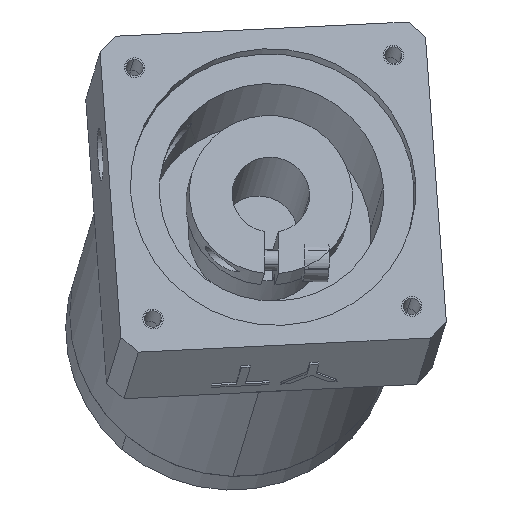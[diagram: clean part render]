
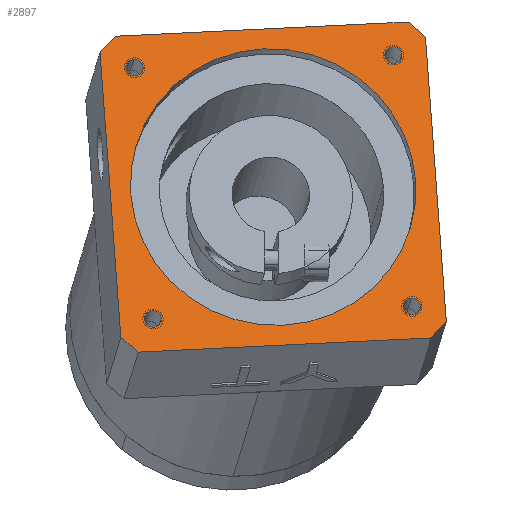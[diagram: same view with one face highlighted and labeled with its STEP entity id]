
A CAD part, left-side view. The second image highlights one B-rep face of the part: STEP entity #2897.
In plain terms, the highlighted planar face has unit normal (-0.963, -0.079, 0.257) as drawn and (0, -1, 0) by its records, which use the part's own axes.
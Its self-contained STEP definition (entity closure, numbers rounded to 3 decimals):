
#2120=DIRECTION('',(-0.707,0.,0.707));
#2121=VECTOR('',#2120,5.657);
#2122=CARTESIAN_POINT('',(-36.,0.,-40.));
#2123=LINE('',#2122,#2121);
#2124=DIRECTION('',(0.,0.,1.));
#2125=VECTOR('',#2124,72.);
#2126=CARTESIAN_POINT('',(-40.,0.,-36.));
#2127=LINE('',#2126,#2125);
#2128=DIRECTION('',(0.707,0.,0.707));
#2129=VECTOR('',#2128,5.657);
#2130=CARTESIAN_POINT('',(-40.,0.,36.));
#2131=LINE('',#2130,#2129);
#2132=DIRECTION('',(1.,0.,0.));
#2133=VECTOR('',#2132,72.);
#2134=CARTESIAN_POINT('',(-36.,0.,40.));
#2135=LINE('',#2134,#2133);
#2136=DIRECTION('',(0.707,0.,-0.707));
#2137=VECTOR('',#2136,5.657);
#2138=CARTESIAN_POINT('',(36.,0.,40.));
#2139=LINE('',#2138,#2137);
#2140=DIRECTION('',(0.,0.,-1.));
#2141=VECTOR('',#2140,72.);
#2142=CARTESIAN_POINT('',(40.,0.,36.));
#2143=LINE('',#2142,#2141);
#2144=DIRECTION('',(-0.707,0.,-0.707));
#2145=VECTOR('',#2144,5.657);
#2146=CARTESIAN_POINT('',(40.,0.,-36.));
#2147=LINE('',#2146,#2145);
#2148=DIRECTION('',(-1.,0.,0.));
#2149=VECTOR('',#2148,72.);
#2150=CARTESIAN_POINT('',(36.,0.,-40.));
#2151=LINE('',#2150,#2149);
#2152=CARTESIAN_POINT('',(0.,0.,0.));
#2153=DIRECTION('',(0.,1.,0.));
#2154=DIRECTION('',(0.,0.,-1.));
#2155=AXIS2_PLACEMENT_3D('',#2152,#2153,#2154);
#2157=CARTESIAN_POINT('',(0.,0.,0.));
#2158=DIRECTION('',(0.,1.,0.));
#2159=DIRECTION('',(0.,0.,1.));
#2160=AXIS2_PLACEMENT_3D('',#2157,#2158,#2159);
#2162=CARTESIAN_POINT('',(-31.82,0.,-31.82));
#2163=DIRECTION('',(0.,-1.,0.));
#2164=DIRECTION('',(-1.,0.,0.));
#2165=AXIS2_PLACEMENT_3D('',#2162,#2163,#2164);
#2167=CARTESIAN_POINT('',(-31.82,0.,-31.82));
#2168=DIRECTION('',(0.,-1.,0.));
#2169=DIRECTION('',(1.,0.,0.));
#2170=AXIS2_PLACEMENT_3D('',#2167,#2168,#2169);
#2172=CARTESIAN_POINT('',(-31.82,0.,31.82));
#2173=DIRECTION('',(0.,-1.,0.));
#2174=DIRECTION('',(0.,0.,1.));
#2175=AXIS2_PLACEMENT_3D('',#2172,#2173,#2174);
#2177=CARTESIAN_POINT('',(-31.82,0.,31.82));
#2178=DIRECTION('',(0.,-1.,0.));
#2179=DIRECTION('',(0.,0.,-1.));
#2180=AXIS2_PLACEMENT_3D('',#2177,#2178,#2179);
#2182=CARTESIAN_POINT('',(31.82,0.,31.82));
#2183=DIRECTION('',(0.,-1.,0.));
#2184=DIRECTION('',(1.,0.,0.));
#2185=AXIS2_PLACEMENT_3D('',#2182,#2183,#2184);
#2187=CARTESIAN_POINT('',(31.82,0.,31.82));
#2188=DIRECTION('',(0.,-1.,0.));
#2189=DIRECTION('',(-1.,0.,0.));
#2190=AXIS2_PLACEMENT_3D('',#2187,#2188,#2189);
#2192=CARTESIAN_POINT('',(31.82,0.,-31.82));
#2193=DIRECTION('',(0.,-1.,0.));
#2194=DIRECTION('',(0.,0.,-1.));
#2195=AXIS2_PLACEMENT_3D('',#2192,#2193,#2194);
#2197=CARTESIAN_POINT('',(31.82,0.,-31.82));
#2198=DIRECTION('',(0.,-1.,0.));
#2199=DIRECTION('',(0.,0.,1.));
#2200=AXIS2_PLACEMENT_3D('',#2197,#2198,#2199);
#2682=CARTESIAN_POINT('',(-36.,0.,-40.));
#2683=CARTESIAN_POINT('',(-40.,0.,-36.));
#2684=VERTEX_POINT('',#2682);
#2685=VERTEX_POINT('',#2683);
#2686=CARTESIAN_POINT('',(-40.,0.,36.));
#2687=VERTEX_POINT('',#2686);
#2688=CARTESIAN_POINT('',(-36.,0.,40.));
#2689=VERTEX_POINT('',#2688);
#2690=CARTESIAN_POINT('',(36.,0.,40.));
#2691=VERTEX_POINT('',#2690);
#2692=CARTESIAN_POINT('',(40.,0.,36.));
#2693=VERTEX_POINT('',#2692);
#2694=CARTESIAN_POINT('',(40.,0.,-36.));
#2695=VERTEX_POINT('',#2694);
#2696=CARTESIAN_POINT('',(36.,0.,-40.));
#2697=VERTEX_POINT('',#2696);
#2722=CARTESIAN_POINT('',(0.,0.,-35.));
#2723=CARTESIAN_POINT('',(0.,0.,35.));
#2724=VERTEX_POINT('',#2722);
#2725=VERTEX_POINT('',#2723);
#2736=CARTESIAN_POINT('',(-33.92,0.,-31.82));
#2737=CARTESIAN_POINT('',(-29.72,0.,-31.82));
#2738=VERTEX_POINT('',#2736);
#2739=VERTEX_POINT('',#2737);
#2746=CARTESIAN_POINT('',(-31.82,0.,33.92));
#2747=CARTESIAN_POINT('',(-31.82,0.,29.72));
#2748=VERTEX_POINT('',#2746);
#2749=VERTEX_POINT('',#2747);
#2756=CARTESIAN_POINT('',(33.92,0.,31.82));
#2757=CARTESIAN_POINT('',(29.72,0.,31.82));
#2758=VERTEX_POINT('',#2756);
#2759=VERTEX_POINT('',#2757);
#2766=CARTESIAN_POINT('',(31.82,0.,-33.92));
#2767=CARTESIAN_POINT('',(31.82,0.,-29.72));
#2768=VERTEX_POINT('',#2766);
#2769=VERTEX_POINT('',#2767);
#2844=CARTESIAN_POINT('',(0.,0.,0.));
#2845=DIRECTION('',(0.,1.,0.));
#2846=DIRECTION('',(1.,0.,0.));
#2847=AXIS2_PLACEMENT_3D('',#2844,#2845,#2846);
#2848=PLANE('',#2847);
#2850=ORIENTED_EDGE('',*,*,#2849,.T.);
#2852=ORIENTED_EDGE('',*,*,#2851,.T.);
#2854=ORIENTED_EDGE('',*,*,#2853,.T.);
#2856=ORIENTED_EDGE('',*,*,#2855,.T.);
#2858=ORIENTED_EDGE('',*,*,#2857,.T.);
#2860=ORIENTED_EDGE('',*,*,#2859,.T.);
#2862=ORIENTED_EDGE('',*,*,#2861,.T.);
#2864=ORIENTED_EDGE('',*,*,#2863,.T.);
#2865=EDGE_LOOP('',(#2850,#2852,#2854,#2856,#2858,#2860,#2862,#2864));
#2866=FACE_OUTER_BOUND('',#2865,.F.);
#2868=ORIENTED_EDGE('',*,*,#2867,.F.);
#2870=ORIENTED_EDGE('',*,*,#2869,.F.);
#2871=EDGE_LOOP('',(#2868,#2870));
#2872=FACE_BOUND('',#2871,.F.);
#2874=ORIENTED_EDGE('',*,*,#2873,.T.);
#2876=ORIENTED_EDGE('',*,*,#2875,.T.);
#2877=EDGE_LOOP('',(#2874,#2876));
#2878=FACE_BOUND('',#2877,.F.);
#2880=ORIENTED_EDGE('',*,*,#2879,.T.);
#2882=ORIENTED_EDGE('',*,*,#2881,.T.);
#2883=EDGE_LOOP('',(#2880,#2882));
#2884=FACE_BOUND('',#2883,.F.);
#2886=ORIENTED_EDGE('',*,*,#2885,.T.);
#2888=ORIENTED_EDGE('',*,*,#2887,.T.);
#2889=EDGE_LOOP('',(#2886,#2888));
#2890=FACE_BOUND('',#2889,.F.);
#2892=ORIENTED_EDGE('',*,*,#2891,.T.);
#2894=ORIENTED_EDGE('',*,*,#2893,.T.);
#2895=EDGE_LOOP('',(#2892,#2894));
#2896=FACE_BOUND('',#2895,.F.);
#2156=CIRCLE('',#2155,35.);
#2161=CIRCLE('',#2160,35.);
#2166=CIRCLE('',#2165,2.1);
#2171=CIRCLE('',#2170,2.1);
#2176=CIRCLE('',#2175,2.1);
#2181=CIRCLE('',#2180,2.1);
#2186=CIRCLE('',#2185,2.1);
#2191=CIRCLE('',#2190,2.1);
#2196=CIRCLE('',#2195,2.1);
#2201=CIRCLE('',#2200,2.1);
#2849=EDGE_CURVE('',#2684,#2685,#2123,.T.);
#2851=EDGE_CURVE('',#2685,#2687,#2127,.T.);
#2853=EDGE_CURVE('',#2687,#2689,#2131,.T.);
#2855=EDGE_CURVE('',#2689,#2691,#2135,.T.);
#2857=EDGE_CURVE('',#2691,#2693,#2139,.T.);
#2859=EDGE_CURVE('',#2693,#2695,#2143,.T.);
#2861=EDGE_CURVE('',#2695,#2697,#2147,.T.);
#2863=EDGE_CURVE('',#2697,#2684,#2151,.T.);
#2867=EDGE_CURVE('',#2724,#2725,#2156,.T.);
#2869=EDGE_CURVE('',#2725,#2724,#2161,.T.);
#2873=EDGE_CURVE('',#2738,#2739,#2166,.T.);
#2875=EDGE_CURVE('',#2739,#2738,#2171,.T.);
#2879=EDGE_CURVE('',#2748,#2749,#2176,.T.);
#2881=EDGE_CURVE('',#2749,#2748,#2181,.T.);
#2885=EDGE_CURVE('',#2758,#2759,#2186,.T.);
#2887=EDGE_CURVE('',#2759,#2758,#2191,.T.);
#2891=EDGE_CURVE('',#2768,#2769,#2196,.T.);
#2893=EDGE_CURVE('',#2769,#2768,#2201,.T.);
#2897=ADVANCED_FACE('',(#2866,#2872,#2878,#2884,#2890,#2896),#2848,.F.);
